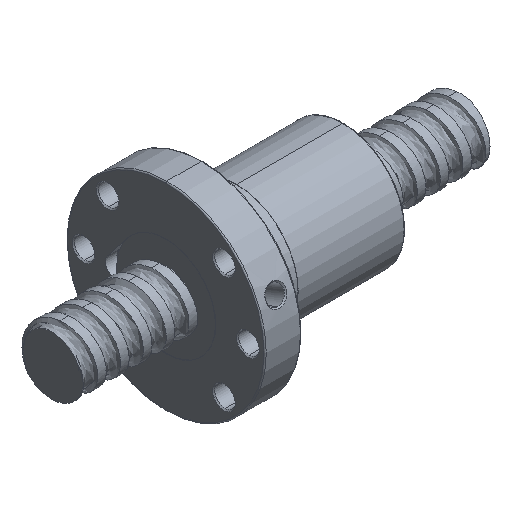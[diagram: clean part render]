
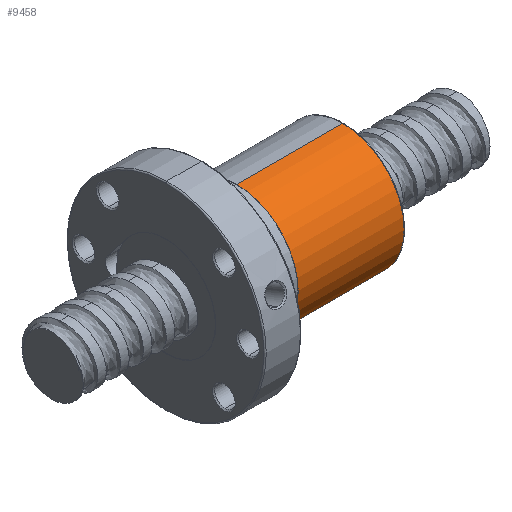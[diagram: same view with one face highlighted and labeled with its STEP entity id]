
A CAD part, isometric view. The second image highlights one B-rep face of the part: STEP entity #9458.
In plain terms, the highlighted cylindrical face has radius 26.9 mm (diameter 53.8 mm), a partial arc.
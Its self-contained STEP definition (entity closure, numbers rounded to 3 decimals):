
#7691 = DIRECTION ( 'NONE',  ( -1., 0., 0. ) ) ;
#7692 = VECTOR ( 'NONE', #7691, 1000. ) ;
#7693 = CARTESIAN_POINT ( 'NONE',  ( 0., 0., 26.9 ) ) ;
#7694 = LINE ( 'NONE', #7693, #7692 ) ;
#7986 = CARTESIAN_POINT ( 'NONE',  ( -47., 0., 26.9 ) ) ;
#7989 = CARTESIAN_POINT ( 'NONE',  ( -47., 0., -26.9 ) ) ;
#7990 = DIRECTION ( 'NONE',  ( -1., 0., 0. ) ) ;
#7992 = VECTOR ( 'NONE', #7990, 1000. ) ;
#7993 = CARTESIAN_POINT ( 'NONE',  ( 0., 0., -26.9 ) ) ;
#7995 = LINE ( 'NONE', #7993, #7992 ) ;
#8693 = DIRECTION ( 'NONE',  ( 0., 0., -1. ) ) ;
#8694 = DIRECTION ( 'NONE',  ( -1., 0., 0. ) ) ;
#8695 = CARTESIAN_POINT ( 'NONE',  ( -0.5, 0., 0. ) ) ;
#8696 = AXIS2_PLACEMENT_3D ( 'NONE', #8695, #8694, #8693 ) ;
#8697 = CIRCLE ( 'NONE', #8696, 26.9 ) ;
#9384 = VERTEX_POINT ( 'NONE', #18394 ) ;
#9385 = VERTEX_POINT ( 'NONE', #18393 ) ;
#9454 = EDGE_CURVE ( 'NONE', #17501, #17503, #18249, .T. ) ;
#9458 = ADVANCED_FACE ( 'NONE', ( #18237 ), #18236, .T. ) ;
#9650 = EDGE_LOOP ( 'NONE', ( #9651, #9652, #9677, #9678 ) ) ;
#9651 = ORIENTED_EDGE ( 'NONE', *, *, #17500, .F. ) ;
#9652 = ORIENTED_EDGE ( 'NONE', *, *, #9676, .T. ) ;
#9676 = EDGE_CURVE ( 'NONE', #9385, #9384, #8697, .T. ) ;
#9677 = ORIENTED_EDGE ( 'NONE', *, *, #17436, .T. ) ;
#9678 = ORIENTED_EDGE ( 'NONE', *, *, #9454, .F. ) ;
#17436 = EDGE_CURVE ( 'NONE', #9384, #17503, #7694, .T. ) ;
#17500 = EDGE_CURVE ( 'NONE', #9385, #17501, #7995, .T. ) ;
#17501 = VERTEX_POINT ( 'NONE', #7989 ) ;
#17503 = VERTEX_POINT ( 'NONE', #7986 ) ;
#18232 = DIRECTION ( 'NONE',  ( 0., 0., 1. ) ) ;
#18233 = DIRECTION ( 'NONE',  ( -1., 0., 0. ) ) ;
#18234 = CARTESIAN_POINT ( 'NONE',  ( 0., 0., 0. ) ) ;
#18235 = AXIS2_PLACEMENT_3D ( 'NONE', #18234, #18233, #18232 ) ;
#18236 = CYLINDRICAL_SURFACE ( 'NONE', #18235, 26.9 ) ;
#18237 = FACE_OUTER_BOUND ( 'NONE', #9650, .T. ) ;
#18238 = DIRECTION ( 'NONE',  ( 0., 0., 1. ) ) ;
#18239 = DIRECTION ( 'NONE',  ( -1., 0., 0. ) ) ;
#18248 = AXIS2_PLACEMENT_3D ( 'NONE', #18253, #18239, #18238 ) ;
#18249 = CIRCLE ( 'NONE', #18248, 26.9 ) ;
#18253 = CARTESIAN_POINT ( 'NONE',  ( -47., 0., 0. ) ) ;
#18393 = CARTESIAN_POINT ( 'NONE',  ( -0.5, 0., -26.9 ) ) ;
#18394 = CARTESIAN_POINT ( 'NONE',  ( -0.5, 0., 26.9 ) ) ;
